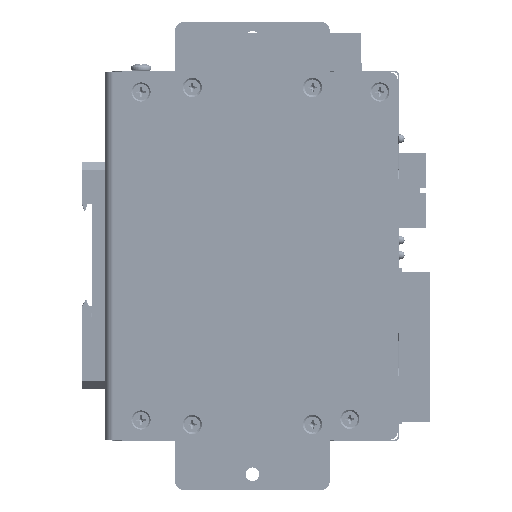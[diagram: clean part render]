
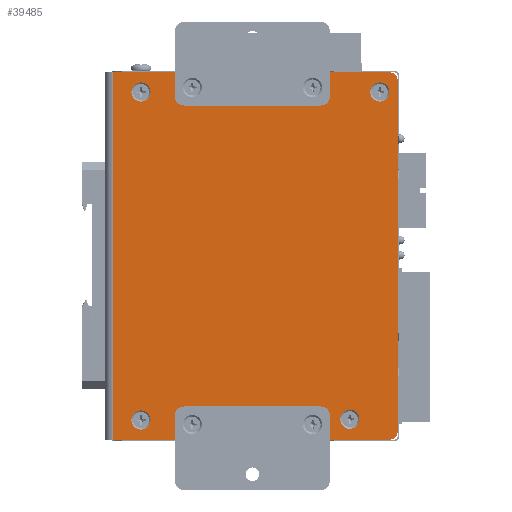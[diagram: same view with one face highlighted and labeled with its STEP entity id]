
A CAD part, left-side view. The second image highlights one B-rep face of the part: STEP entity #39485.
In plain terms, the highlighted planar face has unit normal (-1, 0, 0).
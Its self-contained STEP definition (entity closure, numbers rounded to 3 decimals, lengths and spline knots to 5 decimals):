
#2195=CIRCLE('',#44692,0.00324);
#2196=CIRCLE('',#44693,0.00324);
#2197=CIRCLE('',#44694,0.00324);
#2198=CIRCLE('',#44695,0.00324);
#2199=CIRCLE('',#44696,0.00324);
#2200=CIRCLE('',#44697,0.00324);
#2201=CIRCLE('',#44698,0.00324);
#2202=CIRCLE('',#44699,0.00324);
#2203=CIRCLE('',#44700,0.00254);
#2204=CIRCLE('',#44701,0.00254);
#4129=LINE('',#70285,#7929);
#4133=LINE('',#70294,#7933);
#4139=LINE('',#70308,#7939);
#4141=LINE('',#70330,#7941);
#7929=VECTOR('',#51196,1.);
#7933=VECTOR('',#51202,1.);
#7939=VECTOR('',#51210,1.);
#7941=VECTOR('',#51234,1.);
#15105=ORIENTED_EDGE('',*,*,#23854,.F.);
#15106=ORIENTED_EDGE('',*,*,#23855,.F.);
#15107=ORIENTED_EDGE('',*,*,#23856,.F.);
#15108=ORIENTED_EDGE('',*,*,#23857,.F.);
#15109=ORIENTED_EDGE('',*,*,#23858,.F.);
#15110=ORIENTED_EDGE('',*,*,#23859,.F.);
#15111=ORIENTED_EDGE('',*,*,#23860,.F.);
#15112=ORIENTED_EDGE('',*,*,#23861,.F.);
#15113=ORIENTED_EDGE('',*,*,#23852,.F.);
#15114=ORIENTED_EDGE('',*,*,#23862,.T.);
#15115=ORIENTED_EDGE('',*,*,#23842,.T.);
#15116=ORIENTED_EDGE('',*,*,#23863,.T.);
#15117=ORIENTED_EDGE('',*,*,#23846,.T.);
#15118=ORIENTED_EDGE('',*,*,#23864,.F.);
#23842=EDGE_CURVE('',#28718,#28719,#4129,.T.);
#23846=EDGE_CURVE('',#28722,#28723,#4133,.T.);
#23852=EDGE_CURVE('',#28728,#28729,#4139,.T.);
#23854=EDGE_CURVE('',#28730,#28730,#2195,.T.);
#23855=EDGE_CURVE('',#28731,#28731,#2196,.T.);
#23856=EDGE_CURVE('',#28732,#28732,#2197,.T.);
#23857=EDGE_CURVE('',#28733,#28733,#2198,.T.);
#23858=EDGE_CURVE('',#28734,#28734,#2199,.T.);
#23859=EDGE_CURVE('',#28735,#28735,#2200,.T.);
#23860=EDGE_CURVE('',#28736,#28736,#2201,.T.);
#23861=EDGE_CURVE('',#28737,#28737,#2202,.T.);
#23862=EDGE_CURVE('',#28728,#28718,#2203,.T.);
#23863=EDGE_CURVE('',#28719,#28722,#2204,.T.);
#23864=EDGE_CURVE('',#28729,#28723,#4141,.F.);
#28718=VERTEX_POINT('',#70286);
#28719=VERTEX_POINT('',#70287);
#28722=VERTEX_POINT('',#70295);
#28723=VERTEX_POINT('',#70296);
#28728=VERTEX_POINT('',#70307);
#28729=VERTEX_POINT('',#70309);
#28730=VERTEX_POINT('',#70313);
#28731=VERTEX_POINT('',#70315);
#28732=VERTEX_POINT('',#70317);
#28733=VERTEX_POINT('',#70319);
#28734=VERTEX_POINT('',#70321);
#28735=VERTEX_POINT('',#70323);
#28736=VERTEX_POINT('',#70325);
#28737=VERTEX_POINT('',#70327);
#32558=EDGE_LOOP('',(#15105));
#32559=EDGE_LOOP('',(#15106));
#32560=EDGE_LOOP('',(#15107));
#32561=EDGE_LOOP('',(#15108));
#32562=EDGE_LOOP('',(#15109));
#32563=EDGE_LOOP('',(#15110));
#32564=EDGE_LOOP('',(#15111));
#32565=EDGE_LOOP('',(#15112));
#32566=EDGE_LOOP('',(#15113,#15114,#15115,#15116,#15117,#15118));
#35598=FACE_BOUND('',#32558,.T.);
#35599=FACE_BOUND('',#32559,.T.);
#35600=FACE_BOUND('',#32560,.T.);
#35601=FACE_BOUND('',#32561,.T.);
#35602=FACE_BOUND('',#32562,.T.);
#35603=FACE_BOUND('',#32563,.T.);
#35604=FACE_BOUND('',#32564,.T.);
#35605=FACE_BOUND('',#32565,.T.);
#35606=FACE_BOUND('',#32566,.T.);
#37592=PLANE('',#44691);
#39485=ADVANCED_FACE('',(#35598,#35599,#35600,#35601,#35602,#35603,#35604,
#35605,#35606),#37592,.T.);
#44691=AXIS2_PLACEMENT_3D('',#70311,#51212,#51213);
#44692=AXIS2_PLACEMENT_3D('',#70312,#51214,#51215);
#44693=AXIS2_PLACEMENT_3D('',#70314,#51216,#51217);
#44694=AXIS2_PLACEMENT_3D('',#70316,#51218,#51219);
#44695=AXIS2_PLACEMENT_3D('',#70318,#51220,#51221);
#44696=AXIS2_PLACEMENT_3D('',#70320,#51222,#51223);
#44697=AXIS2_PLACEMENT_3D('',#70322,#51224,#51225);
#44698=AXIS2_PLACEMENT_3D('',#70324,#51226,#51227);
#44699=AXIS2_PLACEMENT_3D('',#70326,#51228,#51229);
#44700=AXIS2_PLACEMENT_3D('',#70328,#51230,#51231);
#44701=AXIS2_PLACEMENT_3D('',#70329,#51232,#51233);
#51196=DIRECTION('',(0.,0.,1.));
#51202=DIRECTION('',(0.,1.,0.));
#51210=DIRECTION('',(0.,1.,0.));
#51212=DIRECTION('',(-1.,0.,0.));
#51213=DIRECTION('',(0.,0.,1.));
#51214=DIRECTION('',(-1.,0.,0.));
#51215=DIRECTION('',(0.,0.,1.));
#51216=DIRECTION('',(-1.,0.,0.));
#51217=DIRECTION('',(0.,0.,1.));
#51218=DIRECTION('',(-1.,0.,0.));
#51219=DIRECTION('',(0.,0.,1.));
#51220=DIRECTION('',(-1.,0.,0.));
#51221=DIRECTION('',(0.,0.,1.));
#51222=DIRECTION('',(-1.,0.,0.));
#51223=DIRECTION('',(0.,0.,1.));
#51224=DIRECTION('',(-1.,0.,0.));
#51225=DIRECTION('',(0.,0.,1.));
#51226=DIRECTION('',(-1.,0.,0.));
#51227=DIRECTION('',(0.,0.,1.));
#51228=DIRECTION('',(-1.,0.,0.));
#51229=DIRECTION('',(0.,0.,1.));
#51230=DIRECTION('',(-1.,0.,0.));
#51231=DIRECTION('',(0.,0.,1.));
#51232=DIRECTION('',(-1.,0.,0.));
#51233=DIRECTION('',(0.,0.,1.));
#51234=DIRECTION('',(0.,0.,-1.));
#70285=CARTESIAN_POINT('',(-0.01524,-0.09703,0.));
#70286=CARTESIAN_POINT('',(-0.01524,-0.09703,-0.05944));
#70287=CARTESIAN_POINT('',(-0.01524,-0.09703,0.05944));
#70294=CARTESIAN_POINT('',(-0.01524,-0.09703,0.06198));
#70295=CARTESIAN_POINT('',(-0.01524,-0.09449,0.06198));
#70296=CARTESIAN_POINT('',(-0.01524,-0.00102,0.06198));
#70307=CARTESIAN_POINT('',(-0.01524,-0.09449,-0.06198));
#70308=CARTESIAN_POINT('',(-0.01524,-0.09703,-0.06198));
#70309=CARTESIAN_POINT('',(-0.01524,-0.00102,-0.06198));
#70311=CARTESIAN_POINT('',(-0.01524,-0.09703,0.));
#70312=CARTESIAN_POINT('',(-0.01524,-0.02769,0.0569));
#70313=CARTESIAN_POINT('',(-0.01524,-0.02769,0.06013));
#70314=CARTESIAN_POINT('',(-0.01524,-0.06833,0.0569));
#70315=CARTESIAN_POINT('',(-0.01524,-0.06833,0.06013));
#70316=CARTESIAN_POINT('',(-0.01524,-0.09106,0.05537));
#70317=CARTESIAN_POINT('',(-0.01524,-0.09106,0.05861));
#70318=CARTESIAN_POINT('',(-0.01524,-0.0809,-0.05512));
#70319=CARTESIAN_POINT('',(-0.01524,-0.0809,-0.05188));
#70320=CARTESIAN_POINT('',(-0.01524,-0.06833,-0.0569));
#70321=CARTESIAN_POINT('',(-0.01524,-0.06833,-0.05366));
#70322=CARTESIAN_POINT('',(-0.01524,-0.02769,-0.0569));
#70323=CARTESIAN_POINT('',(-0.01524,-0.02769,-0.05366));
#70324=CARTESIAN_POINT('',(-0.01524,-0.01041,-0.05537));
#70325=CARTESIAN_POINT('',(-0.01524,-0.01041,-0.05213));
#70326=CARTESIAN_POINT('',(-0.01524,-0.01041,0.05537));
#70327=CARTESIAN_POINT('',(-0.01524,-0.01041,0.05861));
#70328=CARTESIAN_POINT('',(-0.01524,-0.09449,-0.05944));
#70329=CARTESIAN_POINT('',(-0.01524,-0.09449,0.05944));
#70330=CARTESIAN_POINT('',(-0.01524,-0.00102,0.));
